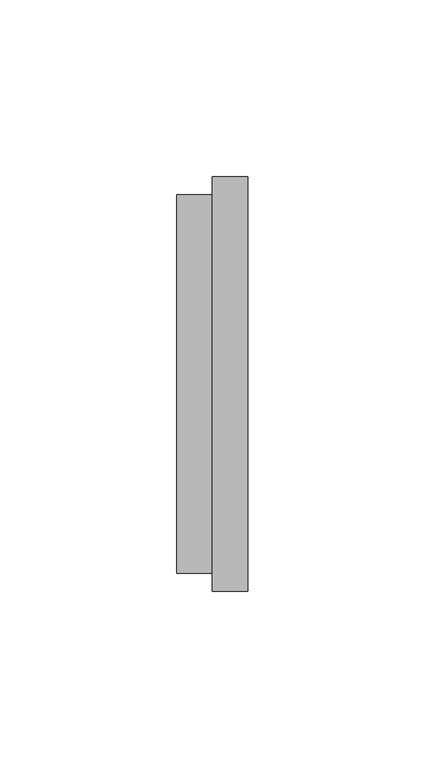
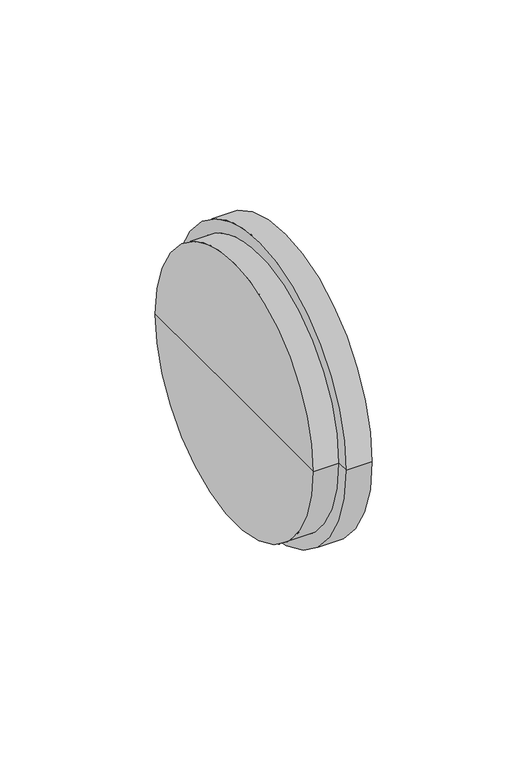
"""IFC4 building model written with IfcOpenShell, lengths in millimetres: cable carrier fitting geometry, PavcoWavin_ConduitFittings_Tapon : EB y DB."""

from ifc_helpers import new_model, si_unit, frame, origin, place, context, project, spatial, circle_curve, source, transform, mapped, element, save
from ifc_brep_helpers import plane_surface, cylinder_surface, advanced_brep


def cable_carrier_fitting_629d5e2b(model_context):
    return source(origin(), model_context, "Body", "AdvancedBrep", [
        advanced_brep(
        [(20.0, -58.5, 0.0), (20.0, 58.5, 0.0), (20.0, 0.0, 0.0), (10.0, -58.5, 0.0), (10.0, 58.5, 0.0), (10.0, -53.5, 0.0), (10.0, 53.5, 0.0), (0.0, -53.5, 0.0), (0.0, 53.5, 0.0), (0.0, 0.0, 0.0)],
        [
            (0, 1, circle_curve(frame((20.0, 0.0, 0.0), z_axis=(1.0, 0.0, 0.0), x_axis=(0.0, 1.0, 0.0)), 58.5)),
            (1, 2),
            (2, 0),
            (1, 0, circle_curve(frame((20.0, 0.0, 0.0), z_axis=(1.0, 0.0, 0.0), x_axis=(0.0, 1.0, 0.0)), 58.5)),
            (3, 4, circle_curve(frame((10.0, 0.0, 0.0), z_axis=(1.0, 0.0, 0.0), x_axis=(0.0, 1.0, 0.0)), 58.5)),
            (4, 1),
            (0, 3),
            (4, 3, circle_curve(frame((10.0, 0.0, 0.0), z_axis=(1.0, 0.0, 0.0), x_axis=(0.0, 1.0, 0.0)), 58.5)),
            (5, 6, circle_curve(frame((10.0, 0.0, 0.0), z_axis=(1.0, 0.0, 0.0), x_axis=(0.0, 1.0, 0.0)), 53.5)),
            (6, 4),
            (3, 5),
            (6, 5, circle_curve(frame((10.0, 0.0, 0.0), z_axis=(1.0, 0.0, 0.0), x_axis=(0.0, 1.0, 0.0)), 53.5)),
            (7, 8, circle_curve(frame((0.0, 0.0, 0.0), z_axis=(1.0, 0.0, 0.0), x_axis=(0.0, 1.0, 0.0)), 53.5)),
            (8, 6),
            (5, 7),
            (8, 7, circle_curve(frame((0.0, 0.0, 0.0), z_axis=(1.0, 0.0, 0.0), x_axis=(0.0, 1.0, 0.0)), 53.5)),
            (9, 8),
            (7, 9),
        ],
        [
            plane_surface(frame((20.0, 0.0, 0.0), z_axis=(1.0, 0.0, 0.0), x_axis=(0.0, 1.0, 0.0))),
            cylinder_surface(frame((1978.9053182, 0.0, 0.0), z_axis=(-1.0, 0.0, 0.0), x_axis=(0.0, 1.0, 0.0)), 58.5),
            plane_surface(frame((10.0, 0.0, 0.0), z_axis=(-1.0, 0.0, 0.0), x_axis=(0.0, 1.0, 0.0))),
            cylinder_surface(frame((1978.9053182, 0.0, 0.0), z_axis=(-1.0, 0.0, 0.0), x_axis=(0.0, 1.0, 0.0)), 53.5),
            plane_surface(frame((0.0, 0.0, 0.0), z_axis=(-1.0, 0.0, 0.0), x_axis=(0.0, 1.0, 0.0))),
        ],
        [
            (0, [[1, 2, 3]]),
            (0, [[4, -3, -2]]),
            (1, [[5, 6, -1, 7]]),
            (1, [[8, -7, -4, -6]]),
            (2, [[9, 10, -5, 11]]),
            (2, [[12, -11, -8, -10]]),
            (3, [[13, 14, -9, 15]]),
            (3, [[16, -15, -12, -14]]),
            (4, [[17, -13, 18]]),
            (4, [[-18, -16, -17]]),
        ],
    ),
    ])


if __name__ == "__main__":
    model = new_model("IFC4")
    model_context = context("Model", 3, world=origin())
    ifc_project = project(units=[si_unit("LENGTHUNIT", "METRE", prefix="MILLI")], contexts=[model_context])
    site = spatial("IfcSite", under=ifc_project)
    building = spatial("IfcBuilding", under=site)
    placement = place(None, origin())
    cable_carrier_fitting_shape = cable_carrier_fitting_629d5e2b(model_context)
    element("IfcCableCarrierFitting", 1, ObjectType="PavcoWavin_ConduitFittings_Tapon : EB y DB", at=placement, inside=building, context=model_context, shape_type="MappedRepresentation", body=[
        mapped(cable_carrier_fitting_shape, transform((0.0, 0.0, 0.0), x_axis=(1.0, 0.0, 0.0), y_axis=(0.0, 1.0, 0.0), z_axis=(0.0, 0.0, 1.0))),
    ])
    save(model, "model.ifc")
